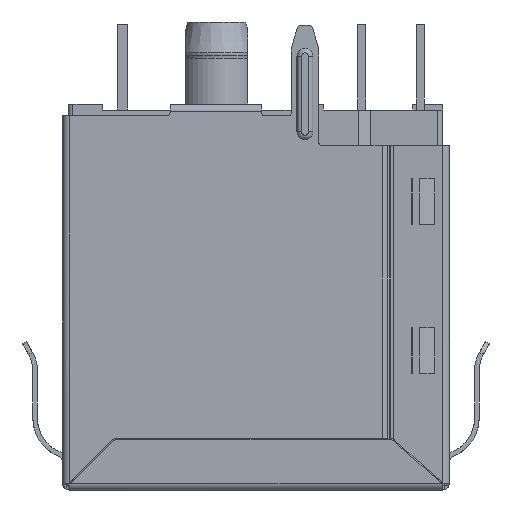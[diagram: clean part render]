
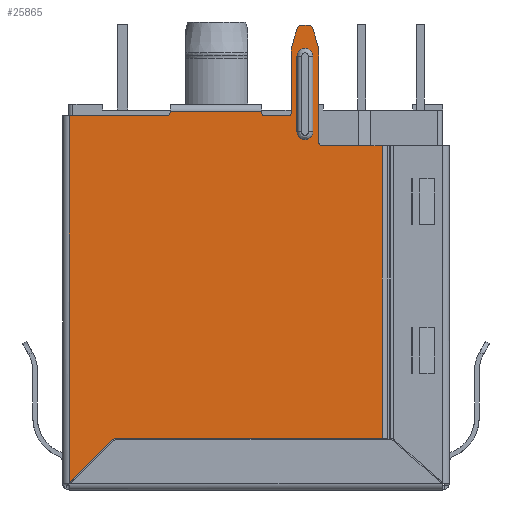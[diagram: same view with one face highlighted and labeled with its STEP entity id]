
A CAD part, front view. The second image highlights one B-rep face of the part: STEP entity #25865.
In plain terms, the highlighted planar face has unit normal (0, -1, 0).
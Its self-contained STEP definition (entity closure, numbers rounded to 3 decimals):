
#18738=CARTESIAN_POINT('',(2.915,-8.05,6.775));
#18739=DIRECTION('',(0.,-1.,0.));
#18740=DIRECTION('',(-1.,0.,0.));
#18741=AXIS2_PLACEMENT_3D('',#18738,#18739,#18740);
#18743=DIRECTION('',(1.,0.,0.));
#18744=VECTOR('',#18743,2.621);
#18745=CARTESIAN_POINT('',(2.915,-8.05,6.625));
#18746=LINE('',#18745,#18744);
#18747=CARTESIAN_POINT('',(-6.088,-8.05,-6.375));
#18748=DIRECTION('',(0.,-1.,0.));
#18749=DIRECTION('',(0.,0.,1.));
#18750=AXIS2_PLACEMENT_3D('',#18747,#18748,#18749);
#18752=DIRECTION('',(-0.714,0.,-0.7));
#18753=VECTOR('',#18752,2.657);
#18754=CARTESIAN_POINT('',(-6.227,-8.05,-6.232));
#18755=LINE('',#18754,#18753);
#18756=DIRECTION('',(1.,0.,0.));
#18757=VECTOR('',#18756,4.25);
#18758=CARTESIAN_POINT('',(-8.125,-8.05,7.925));
#18759=LINE('',#18758,#18757);
#18760=CARTESIAN_POINT('',(-3.875,-8.05,8.075));
#18761=DIRECTION('',(0.,-1.,0.));
#18762=DIRECTION('',(0.,0.,-1.));
#18763=AXIS2_PLACEMENT_3D('',#18760,#18761,#18762);
#18765=CARTESIAN_POINT('',(0.425,-8.05,8.075));
#18766=DIRECTION('',(0.,-1.,0.));
#18767=DIRECTION('',(-1.,0.,0.));
#18768=AXIS2_PLACEMENT_3D('',#18765,#18766,#18767);
#18770=CARTESIAN_POINT('',(1.415,-8.05,8.075));
#18771=DIRECTION('',(0.,-1.,0.));
#18772=DIRECTION('',(0.,0.,-1.));
#18773=AXIS2_PLACEMENT_3D('',#18770,#18771,#18772);
#18775=CARTESIAN_POINT('',(1.765,-8.05,10.846));
#18776=DIRECTION('',(0.,1.,0.));
#18777=DIRECTION('',(-1.,0.,0.));
#18778=AXIS2_PLACEMENT_3D('',#18775,#18776,#18777);
#18780=DIRECTION('',(0.287,0.,0.958));
#18781=VECTOR('',#18780,0.866);
#18782=CARTESIAN_POINT('',(1.573,-8.05,10.903));
#18783=LINE('',#18782,#18781);
#18784=CARTESIAN_POINT('',(2.014,-8.05,11.675));
#18785=DIRECTION('',(0.,1.,0.));
#18786=DIRECTION('',(-0.958,0.,0.287));
#18787=AXIS2_PLACEMENT_3D('',#18784,#18785,#18786);
#18789=CARTESIAN_POINT('',(2.316,-8.05,11.675));
#18790=DIRECTION('',(0.,1.,0.));
#18791=DIRECTION('',(0.,0.,1.));
#18792=AXIS2_PLACEMENT_3D('',#18789,#18790,#18791);
#18794=DIRECTION('',(0.287,0.,-0.958));
#18795=VECTOR('',#18794,0.866);
#18796=CARTESIAN_POINT('',(2.508,-8.05,11.732));
#18797=LINE('',#18796,#18795);
#18798=CARTESIAN_POINT('',(2.565,-8.05,10.846));
#18799=DIRECTION('',(0.,1.,0.));
#18800=DIRECTION('',(0.958,0.,0.287));
#18801=AXIS2_PLACEMENT_3D('',#18798,#18799,#18800);
#18803=CARTESIAN_POINT('',(2.165,-8.05,
7.225));
#18804=DIRECTION('',(0.,-1.,0.));
#18805=DIRECTION('',(-1.,0.,0.));
#18806=AXIS2_PLACEMENT_3D('',#18803,#18804,#18805);
#18808=CARTESIAN_POINT('',(2.165,-8.05,10.525));
#18809=DIRECTION('',(0.,-1.,0.));
#18810=DIRECTION('',(1.,0.,0.));
#18811=AXIS2_PLACEMENT_3D('',#18808,#18809,#18810);
#18817=DIRECTION('',(0.,0.,1.));
#18818=VECTOR('',#18817,4.071);
#18819=CARTESIAN_POINT('',(2.765,-8.05,6.775));
#18820=LINE('',#18819,#18818);
#18841=DIRECTION('',(-1.,0.,0.));
#18842=VECTOR('',#18841,0.302);
#18843=CARTESIAN_POINT('',(2.316,-8.05,11.875));
#18844=LINE('',#18843,#18842);
#18869=DIRECTION('',(0.,0.,-1.));
#18870=VECTOR('',#18869,2.771);
#18871=CARTESIAN_POINT('',(1.565,-8.05,10.846));
#18872=LINE('',#18871,#18870);
#18885=DIRECTION('',(-1.,0.,0.));
#18886=VECTOR('',#18885,0.99);
#18887=CARTESIAN_POINT('',(1.415,-8.05,7.925));
#18888=LINE('',#18887,#18886);
#18906=DIRECTION('',(0.,0.,1.));
#18907=VECTOR('',#18906,0.05);
#18908=CARTESIAN_POINT('',(0.275,-8.05,8.075));
#18909=LINE('',#18908,#18907);
#18977=DIRECTION('',(-1.,0.,0.));
#18978=VECTOR('',#18977,4.);
#18979=CARTESIAN_POINT('',(0.275,-8.05,8.125));
#18980=LINE('',#18979,#18978);
#18998=DIRECTION('',(0.,0.,-1.));
#18999=VECTOR('',#18998,0.05);
#19000=CARTESIAN_POINT('',(-3.725,-8.05,8.125));
#19001=LINE('',#19000,#18999);
#19079=DIRECTION('',(0.,0.,1.));
#19080=VECTOR('',#19079,12.8);
#19081=CARTESIAN_POINT('',(5.536,-8.05,-6.175));
#19082=LINE('',#19081,#19080);
#19141=DIRECTION('',(1.,0.,0.));
#19142=VECTOR('',#19141,11.624);
#19143=CARTESIAN_POINT('',(-6.088,-8.05,-6.175));
#19144=LINE('',#19143,#19142);
#19717=DIRECTION('',(0.,0.,-1.));
#19718=VECTOR('',#19717,16.016);
#19719=CARTESIAN_POINT('',(-8.125,-8.05,7.925));
#19720=LINE('',#19719,#19718);
#22101=DIRECTION('',(0.,0.,1.));
#22102=VECTOR('',#22101,3.3);
#22103=CARTESIAN_POINT('',(1.815,-8.05,
7.225));
#22104=LINE('',#22103,#22102);
#22133=DIRECTION('',(0.,0.,-1.));
#22134=VECTOR('',#22133,3.3);
#22135=CARTESIAN_POINT('',(2.515,-8.05,
10.525));
#22136=LINE('',#22135,#22134);
#23403=CARTESIAN_POINT('',(-3.875,-8.05,7.925));
#23405=VERTEX_POINT('',#23403);
#23407=CARTESIAN_POINT('',(-8.125,-8.05,7.925));
#23408=VERTEX_POINT('',#23407);
#23421=CARTESIAN_POINT('',(-3.725,-8.05,8.075));
#23423=VERTEX_POINT('',#23421);
#23475=CARTESIAN_POINT('',(5.536,-8.05,6.625));
#23476=VERTEX_POINT('',#23475);
#23477=CARTESIAN_POINT('',(2.915,-8.05,6.625));
#23478=VERTEX_POINT('',#23477);
#23479=CARTESIAN_POINT('',(2.765,-8.05,6.775));
#23480=VERTEX_POINT('',#23479);
#23481=CARTESIAN_POINT('',(2.765,-8.05,10.846));
#23482=VERTEX_POINT('',#23481);
#23483=CARTESIAN_POINT('',(-6.088,-8.05,-6.175));
#23484=CARTESIAN_POINT('',(-6.227,-8.05,-6.232));
#23485=VERTEX_POINT('',#23483);
#23486=VERTEX_POINT('',#23484);
#23487=CARTESIAN_POINT('',(-8.125,-8.05,-8.091));
#23488=VERTEX_POINT('',#23487);
#23489=CARTESIAN_POINT('',(0.275,-8.05,8.075));
#23490=CARTESIAN_POINT('',(0.425,-8.05,7.925));
#23491=VERTEX_POINT('',#23489);
#23492=VERTEX_POINT('',#23490);
#23493=CARTESIAN_POINT('',(1.415,-8.05,7.925));
#23494=CARTESIAN_POINT('',(1.565,-8.05,8.075));
#23495=VERTEX_POINT('',#23493);
#23496=VERTEX_POINT('',#23494);
#23497=CARTESIAN_POINT('',(1.565,-8.05,10.846));
#23498=CARTESIAN_POINT('',(1.573,-8.05,10.903));
#23499=VERTEX_POINT('',#23497);
#23500=VERTEX_POINT('',#23498);
#23501=CARTESIAN_POINT('',(1.822,-8.05,11.732));
#23502=VERTEX_POINT('',#23501);
#23503=CARTESIAN_POINT('',(2.014,-8.05,11.875));
#23504=VERTEX_POINT('',#23503);
#23505=CARTESIAN_POINT('',(2.316,-8.05,11.875));
#23506=CARTESIAN_POINT('',(2.508,-8.05,11.732));
#23507=VERTEX_POINT('',#23505);
#23508=VERTEX_POINT('',#23506);
#23509=CARTESIAN_POINT('',(2.757,-8.05,10.903));
#23510=VERTEX_POINT('',#23509);
#23511=CARTESIAN_POINT('',(1.815,-8.05,
7.225));
#23512=CARTESIAN_POINT('',(2.515,-8.05,
7.225));
#23513=VERTEX_POINT('',#23511);
#23514=VERTEX_POINT('',#23512);
#23515=CARTESIAN_POINT('',(2.515,-8.05,
10.525));
#23516=CARTESIAN_POINT('',(1.815,-8.05,
10.525));
#23517=VERTEX_POINT('',#23515);
#23518=VERTEX_POINT('',#23516);
#23523=CARTESIAN_POINT('',(0.275,-8.05,8.125));
#23524=VERTEX_POINT('',#23523);
#23561=CARTESIAN_POINT('',(-3.725,-8.05,8.125));
#23562=VERTEX_POINT('',#23561);
#23571=CARTESIAN_POINT('',(5.536,-8.05,-6.175));
#23572=VERTEX_POINT('',#23571);
#25804=CARTESIAN_POINT('',(-1.294,-8.05,1.892));
#25805=DIRECTION('',(0.,1.,0.));
#25806=DIRECTION('',(1.,0.,0.));
#25807=AXIS2_PLACEMENT_3D('',#25804,#25805,#25806);
#25808=PLANE('',#25807);
#25810=ORIENTED_EDGE('',*,*,#25809,.F.);
#25811=ORIENTED_EDGE('',*,*,#25796,.T.);
#25812=ORIENTED_EDGE('',*,*,#25785,.T.);
#25814=ORIENTED_EDGE('',*,*,#25813,.F.);
#25816=ORIENTED_EDGE('',*,*,#25815,.F.);
#25818=ORIENTED_EDGE('',*,*,#25817,.T.);
#25820=ORIENTED_EDGE('',*,*,#25819,.T.);
#25822=ORIENTED_EDGE('',*,*,#25821,.F.);
#25823=ORIENTED_EDGE('',*,*,#25668,.T.);
#25824=ORIENTED_EDGE('',*,*,#25700,.T.);
#25826=ORIENTED_EDGE('',*,*,#25825,.F.);
#25828=ORIENTED_EDGE('',*,*,#25827,.F.);
#25830=ORIENTED_EDGE('',*,*,#25829,.F.);
#25832=ORIENTED_EDGE('',*,*,#25831,.T.);
#25834=ORIENTED_EDGE('',*,*,#25833,.F.);
#25836=ORIENTED_EDGE('',*,*,#25835,.T.);
#25838=ORIENTED_EDGE('',*,*,#25837,.F.);
#25840=ORIENTED_EDGE('',*,*,#25839,.T.);
#25842=ORIENTED_EDGE('',*,*,#25841,.T.);
#25844=ORIENTED_EDGE('',*,*,#25843,.T.);
#25846=ORIENTED_EDGE('',*,*,#25845,.F.);
#25848=ORIENTED_EDGE('',*,*,#25847,.T.);
#25850=ORIENTED_EDGE('',*,*,#25849,.T.);
#25852=ORIENTED_EDGE('',*,*,#25851,.T.);
#25853=EDGE_LOOP('',(#25810,#25811,#25812,#25814,#25816,#25818,#25820,#25822,
#25823,#25824,#25826,#25828,#25830,#25832,#25834,#25836,#25838,#25840,#25842,
#25844,#25846,#25848,#25850,#25852));
#25854=FACE_OUTER_BOUND('',#25853,.F.);
#25856=ORIENTED_EDGE('',*,*,#25855,.F.);
#25858=ORIENTED_EDGE('',*,*,#25857,.T.);
#25860=ORIENTED_EDGE('',*,*,#25859,.F.);
#25862=ORIENTED_EDGE('',*,*,#25861,.T.);
#25863=EDGE_LOOP('',(#25856,#25858,#25860,#25862));
#25864=FACE_BOUND('',#25863,.F.);
#25865=ADVANCED_FACE('',(#25854,#25864),#25808,.F.);
#18742=CIRCLE('',#18741,0.15);
#18751=CIRCLE('',#18750,0.2);
#18764=CIRCLE('',#18763,0.15);
#18769=CIRCLE('',#18768,0.15);
#18774=CIRCLE('',#18773,0.15);
#18779=CIRCLE('',#18778,0.2);
#18788=CIRCLE('',#18787,0.2);
#18793=CIRCLE('',#18792,0.2);
#18802=CIRCLE('',#18801,0.2);
#18807=CIRCLE('',#18806,0.35);
#18812=CIRCLE('',#18811,0.35);
#25668=EDGE_CURVE('',#23408,#23405,#18759,.T.);
#25700=EDGE_CURVE('',#23405,#23423,#18764,.T.);
#25785=EDGE_CURVE('',#23478,#23476,#18746,.T.);
#25796=EDGE_CURVE('',#23480,#23478,#18742,.T.);
#25809=EDGE_CURVE('',#23480,#23482,#18820,.T.);
#25813=EDGE_CURVE('',#23572,#23476,#19082,.T.);
#25815=EDGE_CURVE('',#23485,#23572,#19144,.T.);
#25817=EDGE_CURVE('',#23485,#23486,#18751,.T.);
#25819=EDGE_CURVE('',#23486,#23488,#18755,.T.);
#25821=EDGE_CURVE('',#23408,#23488,#19720,.T.);
#25825=EDGE_CURVE('',#23562,#23423,#19001,.T.);
#25827=EDGE_CURVE('',#23524,#23562,#18980,.T.);
#25829=EDGE_CURVE('',#23491,#23524,#18909,.T.);
#25831=EDGE_CURVE('',#23491,#23492,#18769,.T.);
#25833=EDGE_CURVE('',#23495,#23492,#18888,.T.);
#25835=EDGE_CURVE('',#23495,#23496,#18774,.T.);
#25837=EDGE_CURVE('',#23499,#23496,#18872,.T.);
#25839=EDGE_CURVE('',#23499,#23500,#18779,.T.);
#25841=EDGE_CURVE('',#23500,#23502,#18783,.T.);
#25843=EDGE_CURVE('',#23502,#23504,#18788,.T.);
#25845=EDGE_CURVE('',#23507,#23504,#18844,.T.);
#25847=EDGE_CURVE('',#23507,#23508,#18793,.T.);
#25849=EDGE_CURVE('',#23508,#23510,#18797,.T.);
#25851=EDGE_CURVE('',#23510,#23482,#18802,.T.);
#25855=EDGE_CURVE('',#23513,#23518,#22104,.T.);
#25857=EDGE_CURVE('',#23513,#23514,#18807,.T.);
#25859=EDGE_CURVE('',#23517,#23514,#22136,.T.);
#25861=EDGE_CURVE('',#23517,#23518,#18812,.T.);
